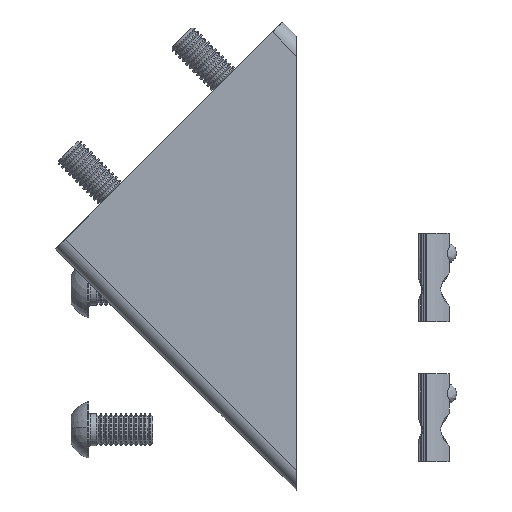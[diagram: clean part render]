
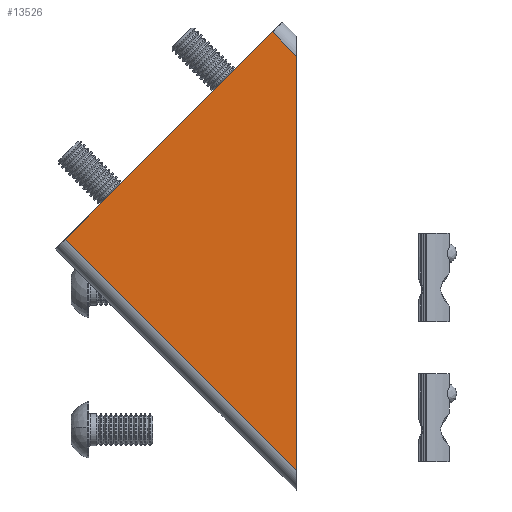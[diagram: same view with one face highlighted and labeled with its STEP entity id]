
A CAD part, left-side view. The second image highlights one B-rep face of the part: STEP entity #13526.
In plain terms, the highlighted planar face has unit normal (-1, 0.004, 0).
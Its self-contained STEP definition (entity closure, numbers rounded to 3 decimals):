
#426 = VECTOR ( 'NONE', #12758, 1000. ) ;
#720 = EDGE_CURVE ( 'NONE', #7054, #5208, #16557, .T. ) ;
#2248 = DIRECTION ( 'NONE',  ( -0.002, -0.707, -0.707 ) ) ;
#2265 = CARTESIAN_POINT ( 'NONE',  ( -19.799, 57.635, 2.469 ) ) ;
#2481 = VECTOR ( 'NONE', #12396, 1000. ) ;
#2550 = VECTOR ( 'NONE', #14800, 1000. ) ;
#2555 = LINE ( 'NONE', #8685, #2550 ) ;
#3180 = CARTESIAN_POINT ( 'NONE',  ( -20., 0., 53.033 ) ) ;
#3948 = VECTOR ( 'NONE', #2248, 1000. ) ;
#4147 = ORIENTED_EDGE ( 'NONE', *, *, #13964, .F. ) ;
#4933 = LINE ( 'NONE', #6732, #426 ) ;
#5208 = VERTEX_POINT ( 'NONE', #2265 ) ;
#5245 = AXIS2_PLACEMENT_3D ( 'NONE', #3180, #7794, #18620 ) ;
#5490 = EDGE_CURVE ( 'NONE', #7282, #5541, #2555, .T. ) ;
#5541 = VERTEX_POINT ( 'NONE', #18214 ) ;
#6732 = CARTESIAN_POINT ( 'NONE',  ( -19.991, 2.551, 50.622 ) ) ;
#7011 = EDGE_LOOP ( 'NONE', ( #10528, #16651, #13189, #4147 ) ) ;
#7054 = VERTEX_POINT ( 'NONE', #7452 ) ;
#7282 = VERTEX_POINT ( 'NONE', #18875 ) ;
#7452 = CARTESIAN_POINT ( 'NONE',  ( -19.979, 6.017, 54.088 ) ) ;
#7794 = DIRECTION ( 'NONE',  ( -1., 0.003, 0. ) ) ;
#8685 = CARTESIAN_POINT ( 'NONE',  ( -20., 0., 53.033 ) ) ;
#10528 = ORIENTED_EDGE ( 'NONE', *, *, #720, .T. ) ;
#12396 = DIRECTION ( 'NONE',  ( 0.002, 0.707, -0.707 ) ) ;
#12695 = FACE_OUTER_BOUND ( 'NONE', #7011, .T. ) ;
#12758 = DIRECTION ( 'NONE',  ( -0.002, -0.707, -0.707 ) ) ;
#12780 = EDGE_CURVE ( 'NONE', #5208, #7282, #17504, .T. ) ;
#13189 = ORIENTED_EDGE ( 'NONE', *, *, #5490, .T. ) ;
#13526 = ADVANCED_FACE ( 'NONE', ( #12695 ), #16923, .T. ) ;
#13964 = EDGE_CURVE ( 'NONE', #7054, #5541, #4933, .T. ) ;
#14800 = DIRECTION ( 'NONE',  ( 0., 0., 1. ) ) ;
#16557 = LINE ( 'NONE', #18531, #2481 ) ;
#16651 = ORIENTED_EDGE ( 'NONE', *, *, #12780, .T. ) ;
#16923 = PLANE ( 'NONE',  #5245 ) ;
#17504 = LINE ( 'NONE', #18795, #3948 ) ;
#18214 = CARTESIAN_POINT ( 'NONE',  ( -20., 0., 48.071 ) ) ;
#18531 = CARTESIAN_POINT ( 'NONE',  ( -19.979, 6.017, 54.088 ) ) ;
#18620 = DIRECTION ( 'NONE',  ( -0.003, -1., 0. ) ) ;
#18795 = CARTESIAN_POINT ( 'NONE',  ( -19.799, 57.635, 2.469 ) ) ;
#18875 = CARTESIAN_POINT ( 'NONE',  ( -20., 0., -55.167 ) ) ;
